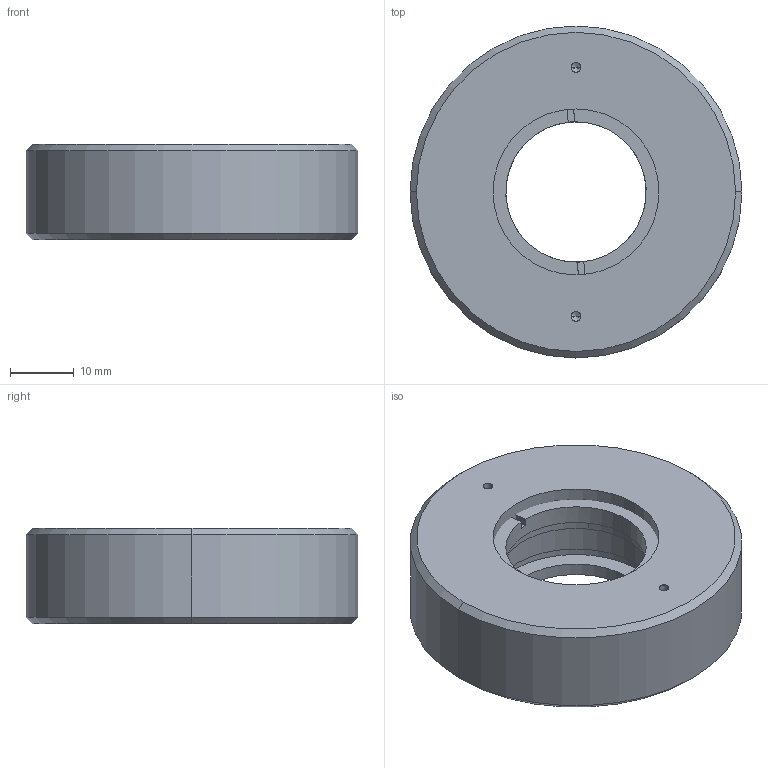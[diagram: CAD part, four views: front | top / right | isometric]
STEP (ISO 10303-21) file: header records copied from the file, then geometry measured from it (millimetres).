
FILE_DESCRIPTION (( 'STEP AP203' ), '1' );
FILE_NAME ('ACOA25.4-1.STEP', '2022-07-22T08:49:35', ( '' ), ( '' ), 'SwSTEP 2.0', 'SolidWorks 2021', '' );
FILE_SCHEMA (( 'CONFIG_CONTROL_DESIGN' ));
Length unit declared in the file: millimetre
Products named in the file (1): ACOA25.4-1
Bounding box: 52 x 52 x 15 mm (x, y, z)
Volume: 24683.6 mm3; surface area: 8363.7 mm2
Topology: 3 solids, 3 shells, 225 faces, 609 edges, 399 vertices
Faces by surface type: plane 188, cylinder 20, cone 17
Entity records: 7025 total; most frequent: CARTESIAN_POINT 1242, ORIENTED_EDGE 1210, DIRECTION 1114, EDGE_CURVE 605, LINE 540, VECTOR 540, VERTEX_POINT 399, AXIS2_PLACEMENT_3D 287
